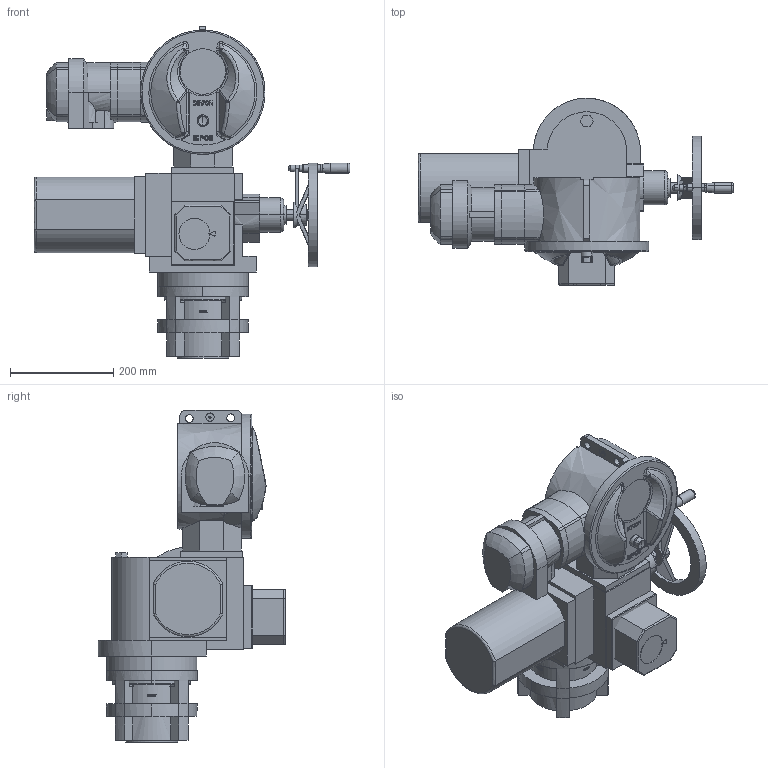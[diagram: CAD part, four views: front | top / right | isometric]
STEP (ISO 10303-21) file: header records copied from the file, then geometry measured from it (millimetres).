
FILE_DESCRIPTION(('Creo Elements/Direct Modeling STEP Export'),'2;1');
FILE_NAME('2SA7.3_2SA7.4_Output_Speed_C-203.stp','2018-09-18T11:18:46',(''),(''),'Creo Elements/Direct Modeling STEP processor for AP203 (Solid Model)','Creo Elements/Direct Modeling 20.0C 26-Jan-2018 (C) Parametric Technology GmbH','');
FILE_SCHEMA(('CONFIG_CONTROL_DESIGN'));
Length unit declared in the file: millimetre
Products named in the file (19): Plug_Connection; Field_Bus; Select_E_Connection; Actuator_Size_3; Hand_Wheel_Size_3; Hand_Crank_Size_3; Select_Manual_Drive; Cover_Signaling_Device; Cover_niP; Select_Cover_Pos_Recording; E_Housing_Small; Shaft_A_F14_F10; Shaft_A_F14; Flange_F14_F10; Shaft_AF_F14; Flange_F14_F12; Shaft_A_F14_F12; Select_Output_Shaft_Add_Part; 2SA7.3_2SA7.4_Output_Speed_C
Assembly tree (18 placements, depth 3):
  2SA7.3_2SA7.4_Output_Speed_C
    Select_Output_Shaft_Add_Part
      Shaft_A_F14_F12
      Flange_F14_F12
      Shaft_AF_F14
      Flange_F14_F10
      Shaft_A_F14
      Shaft_A_F14_F10
    E_Housing_Small
    Select_Cover_Pos_Recording
      Cover_niP
      Cover_Signaling_Device
    Select_Manual_Drive
      Hand_Crank_Size_3
      Hand_Wheel_Size_3
    Actuator_Size_3
    Select_E_Connection
      Field_Bus
      Plug_Connection
Bounding box: 610 x 362.43 x 641.6 mm (x, y, z)
Volume: 30919246.9 mm3; surface area: 1572717.7 mm2
Topology: 14 solids, 14 shells, 2303 faces, 6156 edges, 4023 vertices
Faces by surface type: bspline 2303
Entity records: 94564 total; most frequent: CARTESIAN_POINT 56969, ORIENTED_EDGE 12180, EDGE_CURVE 6090, B_SPLINE_CURVE_WITH_KNOTS 4287, VERTEX_POINT 4023, EDGE_LOOP 2521, FACE_OUTER_BOUND 2303, ADVANCED_FACE 2303
